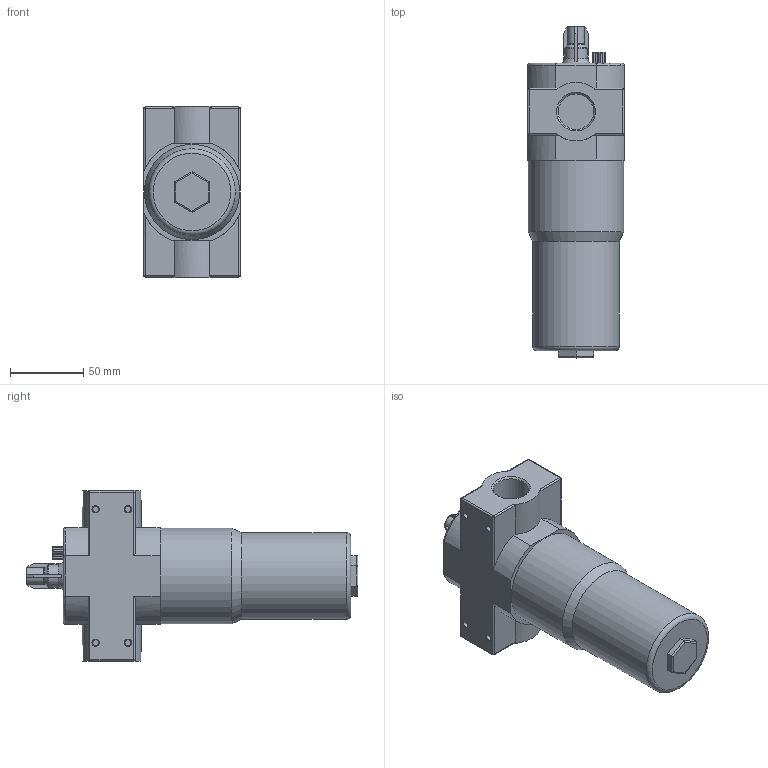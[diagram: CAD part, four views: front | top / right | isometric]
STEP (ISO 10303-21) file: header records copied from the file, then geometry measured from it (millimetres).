
FILE_DESCRIPTION(/* description */ ('STEP AP214'),/* implementation_level */ '2;1');
FILE_NAME(/* name */ '90-OC-34.stp',/* time_stamp */ '2026-01-20T15:18:42+01:00',/* author */ ('Tschernatsch'),/* organization */ ('CADENAS'),/* preprocessor_version */ 'ST-DEVELOPER v20',/* originating_system */ 'Autodesk Inventor 2024',/* authorisation */ ' ');
FILE_SCHEMA (('AUTOMOTIVE_DESIGN { 1 0 10303 214 3 1 1 }'));
Length unit declared in the file: millimetre
Products named in the file (1): LOE-G3/4-MAXI_____
Bounding box: 66 x 226.5 x 116 mm (x, y, z)
Volume: 749948.7 mm3; surface area: 64728.5 mm2
Topology: 1 solids, 1 shells, 194 faces, 480 edges, 290 vertices
Faces by surface type: cylinder 82, plane 70, torus 22, cone 12, sphere 8
Full cylindrical faces by diameter (mm): 4.134 x4, 24.117 x2, 59 x1, 65 x1
Entity records: 6106 total; most frequent: CARTESIAN_POINT 1539, DIRECTION 952, ORIENTED_EDGE 944, EDGE_CURVE 472, AXIS2_PLACEMENT_3D 354, VERTEX_POINT 290, LINE 244, VECTOR 244
